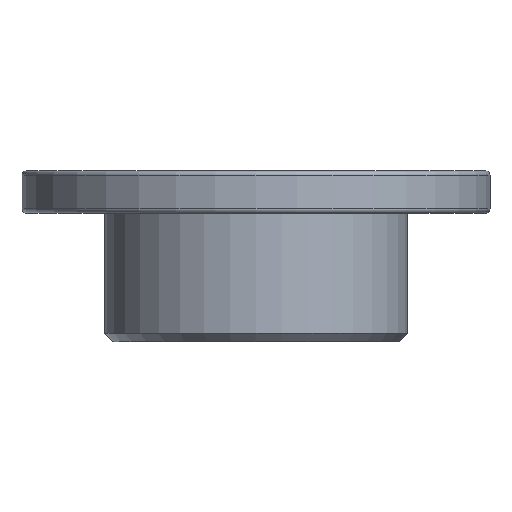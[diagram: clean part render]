
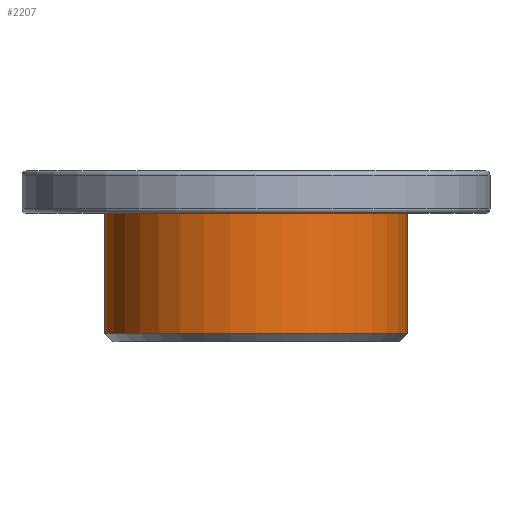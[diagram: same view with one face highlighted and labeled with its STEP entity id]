
A CAD part, front view. The second image highlights one B-rep face of the part: STEP entity #2207.
In plain terms, the highlighted cylindrical face has radius 1.8 mm (diameter 3.6 mm), a partial arc.
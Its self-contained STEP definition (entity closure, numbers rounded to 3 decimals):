
#166 = VERTEX_POINT('',#167);
#167 = CARTESIAN_POINT('',(-1.8,0.,-1.4));
#174 = VERTEX_POINT('',#175);
#175 = CARTESIAN_POINT('',(1.8,0.,
    -1.4));
#319 = VERTEX_POINT('',#320);
#320 = CARTESIAN_POINT('',(1.8,0.,
    0.03));
#321 = VERTEX_POINT('',#322);
#322 = CARTESIAN_POINT('',(-1.8,0.,0.03));
#329 = EDGE_CURVE('',#319,#174,#330,.T.);
#330 = LINE('',#331,#332);
#331 = CARTESIAN_POINT('',(1.8,0.,
    0.03));
#332 = VECTOR('',#333,1.);
#333 = DIRECTION('',(-0.,-0.,-1.));
#336 = EDGE_CURVE('',#321,#166,#337,.T.);
#337 = LINE('',#338,#339);
#338 = CARTESIAN_POINT('',(-1.8,0.,0.03));
#339 = VECTOR('',#340,1.);
#340 = DIRECTION('',(-0.,-0.,-1.));
#2207 = ADVANCED_FACE('',(#2208),#2226,.T.);
#2208 = FACE_BOUND('',#2209,.T.);
#2209 = EDGE_LOOP('',(#2210,#2211,#2218,#2219));
#2210 = ORIENTED_EDGE('',*,*,#329,.F.);
#2211 = ORIENTED_EDGE('',*,*,#2212,.F.);
#2212 = EDGE_CURVE('',#321,#319,#2213,.T.);
#2213 = CIRCLE('',#2214,1.8);
#2214 = AXIS2_PLACEMENT_3D('',#2215,#2216,#2217);
#2215 = CARTESIAN_POINT('',(0.,0.,0.03));
#2216 = DIRECTION('',(0.,0.,1.));
#2217 = DIRECTION('',(1.,0.,-0.));
#2218 = ORIENTED_EDGE('',*,*,#336,.T.);
#2219 = ORIENTED_EDGE('',*,*,#2220,.T.);
#2220 = EDGE_CURVE('',#166,#174,#2221,.T.);
#2221 = CIRCLE('',#2222,1.8);
#2222 = AXIS2_PLACEMENT_3D('',#2223,#2224,#2225);
#2223 = CARTESIAN_POINT('',(0.,0.,-1.4));
#2224 = DIRECTION('',(0.,0.,1.));
#2225 = DIRECTION('',(1.,0.,-0.));
#2226 = CYLINDRICAL_SURFACE('',#2227,1.8);
#2227 = AXIS2_PLACEMENT_3D('',#2228,#2229,#2230);
#2228 = CARTESIAN_POINT('',(0.,0.,0.03));
#2229 = DIRECTION('',(-0.,-0.,-1.));
#2230 = DIRECTION('',(-1.,0.,0.));
